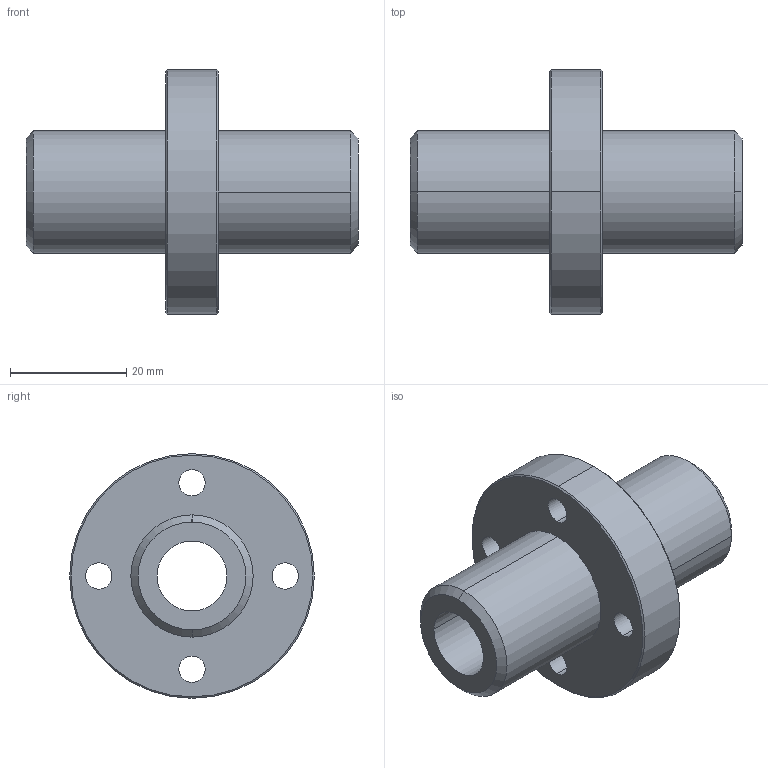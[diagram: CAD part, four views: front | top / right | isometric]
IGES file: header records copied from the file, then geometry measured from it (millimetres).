
Start section: 3D InterOp IGES (Version 21 0 1), Spatial Corp. Copyright (c) 1999-2007.
Global section: file name: CFPJR12.igs; native system: Spatial Corp.; preprocessor: 3D InterOp GENERIC/IGES 3.0; author: Noname; organization: Noname; date: 20220324.131835; units: millimetre
Bounding box: 57 x 42 x 42 mm (x, y, z)
Surface area: 9443.9 mm2 (no closed solid volume)
Topology: 0 solids, 0 shells, 40 faces, 180 edges, 180 vertices
Faces by surface type: revolution 32, extrusion 8
